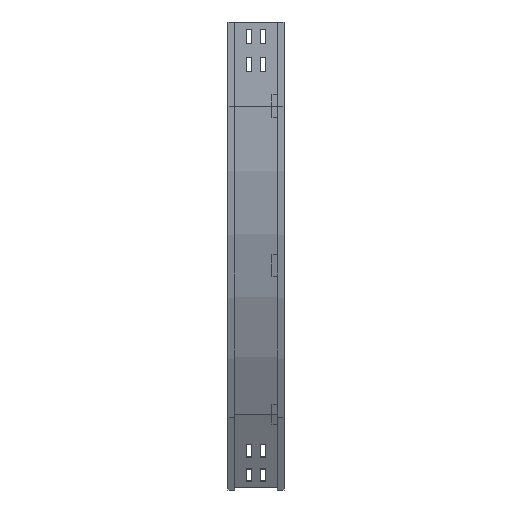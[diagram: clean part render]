
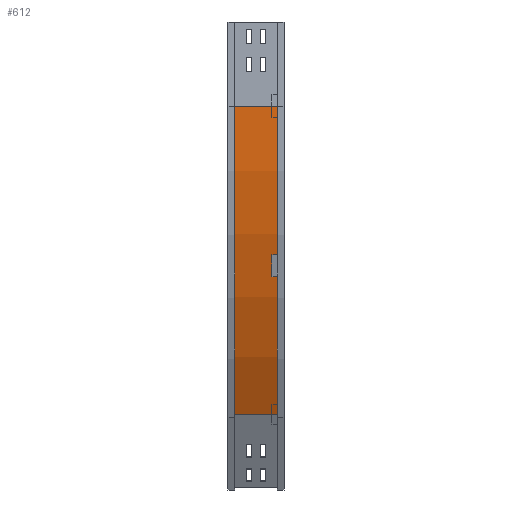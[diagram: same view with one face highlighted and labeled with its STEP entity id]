
A CAD part, left-side view. The second image highlights one B-rep face of the part: STEP entity #612.
In plain terms, the highlighted cylindrical face has radius 1100 mm (diameter 2200 mm), a partial arc.
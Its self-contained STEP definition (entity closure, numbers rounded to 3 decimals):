
#511 = EDGE_LOOP ( 'NONE', ( #1569, #743, #3997, #2161 ) ) ;
#532 = VERTEX_POINT ( 'NONE', #1649 ) ;
#612 = ADVANCED_FACE ( 'NONE', ( #3410 ), #2450, .T. ) ;
#743 = ORIENTED_EDGE ( 'NONE', *, *, #2684, .F. ) ;
#858 = EDGE_CURVE ( 'NONE', #532, #4465, #1651, .T. ) ;
#868 = CIRCLE ( 'NONE', #1097, 1100. ) ;
#870 = CARTESIAN_POINT ( 'NONE',  ( 1109., 12., -150. ) ) ;
#914 = DIRECTION ( 'NONE',  ( -1., 0., 0. ) ) ;
#1041 = CARTESIAN_POINT ( 'NONE',  ( 1109., 0., -150. ) ) ;
#1097 = AXIS2_PLACEMENT_3D ( 'NONE', #3438, #2065, #2191 ) ;
#1178 = EDGE_CURVE ( 'NONE', #4244, #4465, #3924, .T. ) ;
#1260 = DIRECTION ( 'NONE',  ( 0., -1., 0. ) ) ;
#1490 = CARTESIAN_POINT ( 'NONE',  ( 156.372, 12., -700. ) ) ;
#1569 = ORIENTED_EDGE ( 'NONE', *, *, #858, .F. ) ;
#1600 = DIRECTION ( 'NONE',  ( 0., -1., 0. ) ) ;
#1649 = CARTESIAN_POINT ( 'NONE',  ( 9., 12., -150. ) ) ;
#1651 = CIRCLE ( 'NONE', #4200, 1100. ) ;
#1723 = CARTESIAN_POINT ( 'NONE',  ( 9., 12., -150. ) ) ;
#1928 = VERTEX_POINT ( 'NONE', #3993 ) ;
#2065 = DIRECTION ( 'NONE',  ( 0., -1., 0. ) ) ;
#2161 = ORIENTED_EDGE ( 'NONE', *, *, #1178, .T. ) ;
#2191 = DIRECTION ( 'NONE',  ( -1., 0., 0. ) ) ;
#2409 = LINE ( 'NONE', #1723, #4501 ) ;
#2450 = CYLINDRICAL_SURFACE ( 'NONE', #4054, 1100. ) ;
#2461 = VECTOR ( 'NONE', #1600, 1000. ) ;
#2539 = CARTESIAN_POINT ( 'NONE',  ( 156.372, 12., -700. ) ) ;
#2684 = EDGE_CURVE ( 'NONE', #1928, #532, #2409, .T. ) ;
#2704 = DIRECTION ( 'NONE',  ( 0., -1., 0. ) ) ;
#3410 = FACE_OUTER_BOUND ( 'NONE', #511, .T. ) ;
#3438 = CARTESIAN_POINT ( 'NONE',  ( 1109., 88., -150. ) ) ;
#3501 = DIRECTION ( 'NONE',  ( 0., -1., 0. ) ) ;
#3924 = LINE ( 'NONE', #2539, #2461 ) ;
#3993 = CARTESIAN_POINT ( 'NONE',  ( 9., 88., -150. ) ) ;
#3997 = ORIENTED_EDGE ( 'NONE', *, *, #4385, .T. ) ;
#4054 = AXIS2_PLACEMENT_3D ( 'NONE', #1041, #3501, #4114 ) ;
#4073 = CARTESIAN_POINT ( 'NONE',  ( 156.372, 88., -700. ) ) ;
#4114 = DIRECTION ( 'NONE',  ( 0., 0., -1. ) ) ;
#4200 = AXIS2_PLACEMENT_3D ( 'NONE', #870, #1260, #914 ) ;
#4244 = VERTEX_POINT ( 'NONE', #4073 ) ;
#4385 = EDGE_CURVE ( 'NONE', #1928, #4244, #868, .T. ) ;
#4465 = VERTEX_POINT ( 'NONE', #1490 ) ;
#4501 = VECTOR ( 'NONE', #2704, 1000. ) ;
